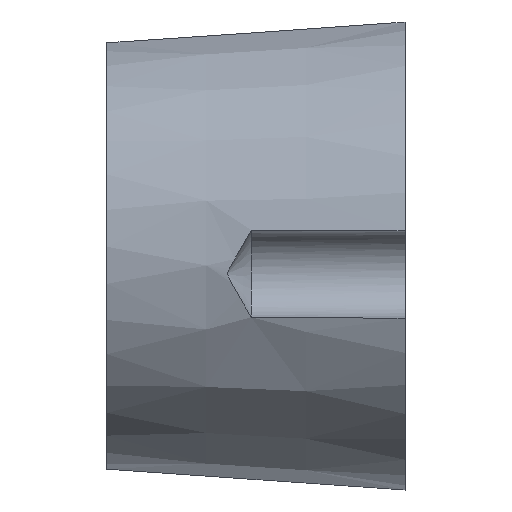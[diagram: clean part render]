
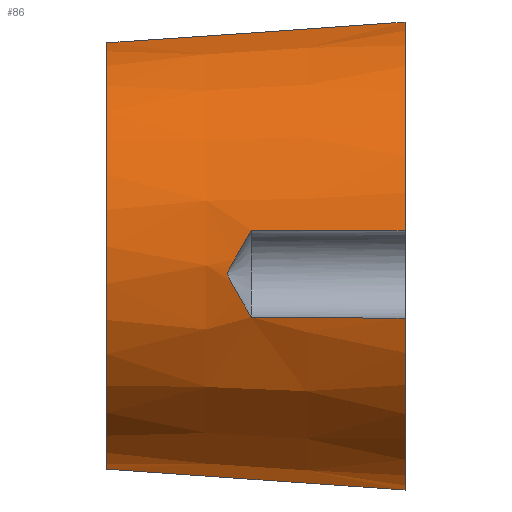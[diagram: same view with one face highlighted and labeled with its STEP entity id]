
A CAD part, top view. The second image highlights one B-rep face of the part: STEP entity #86.
In plain terms, the highlighted conical face has half-angle 4 degrees and reference radius 16.041 mm.
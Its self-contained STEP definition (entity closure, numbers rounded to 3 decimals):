
#86 = ADVANCED_FACE( '', ( #118 ), #119, .T. );
#118 = FACE_OUTER_BOUND( '', #158, .T. );
#119 = CONICAL_SURFACE( '', #159, 16.041, 0.07 );
#158 = EDGE_LOOP( '', ( #279, #280, #281, #282, #283, #284, #285, #286 ) );
#159 = AXIS2_PLACEMENT_3D( '', #287, #288, #289 );
#279 = ORIENTED_EDGE( '', *, *, #391, .F. );
#280 = ORIENTED_EDGE( '', *, *, #373, .F. );
#281 = ORIENTED_EDGE( '', *, *, #346, .F. );
#282 = ORIENTED_EDGE( '', *, *, #387, .T. );
#283 = ORIENTED_EDGE( '', *, *, #357, .T. );
#284 = ORIENTED_EDGE( '', *, *, #375, .F. );
#285 = ORIENTED_EDGE( '', *, *, #392, .F. );
#286 = ORIENTED_EDGE( '', *, *, #344, .F. );
#287 = CARTESIAN_POINT( '', ( -22.3, 0., 0. ) );
#288 = DIRECTION( '', ( 1., 0., 0. ) );
#289 = DIRECTION( '', ( 0., 1., 0. ) );
#344 = EDGE_CURVE( '', #398, #399, #400, .T. );
#346 = EDGE_CURVE( '', #402, #403, #404, .T. );
#357 = EDGE_CURVE( '', #419, #423, #425, .T. );
#373 = EDGE_CURVE( '', #403, #451, #452, .T. );
#375 = EDGE_CURVE( '', #453, #423, #455, .T. );
#387 = EDGE_CURVE( '', #402, #419, #475, .T. );
#391 = EDGE_CURVE( '', #451, #398, #481, .T. );
#392 = EDGE_CURVE( '', #399, #453, #482, .T. );
#398 = VERTEX_POINT( '', #488 );
#399 = VERTEX_POINT( '', #489 );
#400 = B_SPLINE_CURVE_WITH_KNOTS( '', 3, ( #490, #491, #492, #493, #494, #495, #496, #497, #498, #499, #500, #501, #502, #503, #504, #505, #506, #507, #508, #509, #510, #511 ), .UNSPECIFIED., .F., .F., ( 4, 2, 2, 2, 2, 2, 2, 2, 2, 2, 4 ), ( 0., 0.002, 0.003, 0.003, 0.004, 0.004, 0.004, 0.004, 0.005, 0.006, 0.007 ), .UNSPECIFIED. );
#402 = VERTEX_POINT( '', #513 );
#403 = VERTEX_POINT( '', #514 );
#404 = B_SPLINE_CURVE_WITH_KNOTS( '', 3, ( #515, #516, #517, #518, #519, #520 ), .UNSPECIFIED., .F., .F., ( 4, 2, 4 ), ( 0., 0.011, 0.022 ), .UNSPECIFIED. );
#419 = VERTEX_POINT( '', #549 );
#423 = VERTEX_POINT( '', #555 );
#425 = B_SPLINE_CURVE_WITH_KNOTS( '', 3, ( #558, #559, #560, #561, #562, #563, #564 ), .UNSPECIFIED., .F., .F., ( 4, 3, 4 ), ( 0.028, 0.03, 0.05 ), .UNSPECIFIED. );
#451 = VERTEX_POINT( '', #600 );
#452 = CIRCLE( '', #601, 17.6 );
#453 = VERTEX_POINT( '', #602 );
#455 = CIRCLE( '', #604, 17.6 );
#475 = CIRCLE( '', #630, 16.041 );
#481 = B_SPLINE_CURVE_WITH_KNOTS( '', 3, ( #663, #664, #665, #666 ), .UNSPECIFIED., .F., .F., ( 4, 4 ), ( 0., 0.012 ), .UNSPECIFIED. );
#482 = B_SPLINE_CURVE_WITH_KNOTS( '', 3, ( #667, #668, #669, #670 ), .UNSPECIFIED., .F., .F., ( 4, 4 ), ( 0., 0.012 ), .UNSPECIFIED. );
#488 = CARTESIAN_POINT( '', ( -11.5, 1.826, 16.696 ) );
#489 = CARTESIAN_POINT( '', ( -11.5, -4.687, 16.129 ) );
#490 = CARTESIAN_POINT( '', ( -11.5, 1.826, 16.696 ) );
#491 = CARTESIAN_POINT( '', ( -11.812, 1.287, 16.733 ) );
#492 = CARTESIAN_POINT( '', ( -12.124, 0.746, 16.744 ) );
#493 = CARTESIAN_POINT( '', ( -12.59, -0.065, 16.722 ) );
#494 = CARTESIAN_POINT( '', ( -12.745, -0.335, 16.708 ) );
#495 = CARTESIAN_POINT( '', ( -12.973, -0.743, 16.677 ) );
#496 = CARTESIAN_POINT( '', ( -13.048, -0.88, 16.665 ) );
#497 = CARTESIAN_POINT( '', ( -13.152, -1.088, 16.645 ) );
#498 = CARTESIAN_POINT( '', ( -13.185, -1.158, 16.638 ) );
#499 = CARTESIAN_POINT( '', ( -13.239, -1.304, 16.623 ) );
#500 = CARTESIAN_POINT( '', ( -13.259, -1.38, 16.616 ) );
#501 = CARTESIAN_POINT( '', ( -13.256, -1.536, 16.602 ) );
#502 = CARTESIAN_POINT( '', ( -13.233, -1.612, 16.597 ) );
#503 = CARTESIAN_POINT( '', ( -13.177, -1.756, 16.586 ) );
#504 = CARTESIAN_POINT( '', ( -13.143, -1.826, 16.581 ) );
#505 = CARTESIAN_POINT( '', ( -13.039, -2.033, 16.564 ) );
#506 = CARTESIAN_POINT( '', ( -12.964, -2.169, 16.553 ) );
#507 = CARTESIAN_POINT( '', ( -12.738, -2.574, 16.512 ) );
#508 = CARTESIAN_POINT( '', ( -12.583, -2.841, 16.479 ) );
#509 = CARTESIAN_POINT( '', ( -12.12, -3.638, 16.361 ) );
#510 = CARTESIAN_POINT( '', ( -11.81, -4.165, 16.258 ) );
#511 = CARTESIAN_POINT( '', ( -11.5, -4.687, 16.129 ) );
#513 = CARTESIAN_POINT( '', ( -22.3, 15.868, 2.347 ) );
#514 = CARTESIAN_POINT( '', ( 0., 17.423, 2.488 ) );
#515 = CARTESIAN_POINT( '', ( -22.3, 15.868, 2.347 ) );
#516 = CARTESIAN_POINT( '', ( -18.583, 16.115, 2.452 ) );
#517 = CARTESIAN_POINT( '', ( -14.866, 16.368, 2.515 ) );
#518 = CARTESIAN_POINT( '', ( -7.432, 16.887, 2.563 ) );
#519 = CARTESIAN_POINT( '', ( -3.716, 17.152, 2.549 ) );
#520 = CARTESIAN_POINT( '', ( 0., 17.423, 2.488 ) );
#549 = CARTESIAN_POINT( '', ( -22.3, -16.023, 0.75 ) );
#555 = CARTESIAN_POINT( '', ( 0., -17.584, 0.75 ) );
#558 = CARTESIAN_POINT( '', ( -22.3, -16.023, 0.75 ) );
#559 = CARTESIAN_POINT( '', ( -21.441, -16.083, 0.75 ) );
#560 = CARTESIAN_POINT( '', ( -20.582, -16.143, 0.75 ) );
#561 = CARTESIAN_POINT( '', ( -19.723, -16.203, 0.75 ) );
#562 = CARTESIAN_POINT( '', ( -13.149, -16.664, 0.75 ) );
#563 = CARTESIAN_POINT( '', ( -6.574, -17.124, 0.75 ) );
#564 = CARTESIAN_POINT( '', ( 0., -17.584, 0.75 ) );
#600 = CARTESIAN_POINT( '', ( 0., 1.766, 17.511 ) );
#601 = AXIS2_PLACEMENT_3D( '', #720, #721, #722 );
#602 = CARTESIAN_POINT( '', ( 0., -4.769, 16.942 ) );
#604 = AXIS2_PLACEMENT_3D( '', #726, #727, #728 );
#630 = AXIS2_PLACEMENT_3D( '', #750, #751, #752 );
#663 = CARTESIAN_POINT( '', ( 0., 1.766, 17.511 ) );
#664 = CARTESIAN_POINT( '', ( -3.833, 1.821, 17.236 ) );
#665 = CARTESIAN_POINT( '', ( -7.666, 1.84, 16.964 ) );
#666 = CARTESIAN_POINT( '', ( -11.5, 1.826, 16.696 ) );
#667 = CARTESIAN_POINT( '', ( -11.5, -4.687, 16.129 ) );
#668 = CARTESIAN_POINT( '', ( -7.666, -4.747, 16.39 ) );
#669 = CARTESIAN_POINT( '', ( -3.833, -4.775, 16.661 ) );
#670 = CARTESIAN_POINT( '', ( 0., -4.769, 16.942 ) );
#720 = CARTESIAN_POINT( '', ( 0., 0., 0. ) );
#721 = DIRECTION( '', ( 1., 0., 0. ) );
#722 = DIRECTION( '', ( 0., 1., 0. ) );
#726 = CARTESIAN_POINT( '', ( 0., 0., 0. ) );
#727 = DIRECTION( '', ( 1., 0., 0. ) );
#728 = DIRECTION( '', ( 0., 1., 0. ) );
#750 = CARTESIAN_POINT( '', ( -22.3, 0., 0. ) );
#751 = DIRECTION( '', ( 1., 0., 0. ) );
#752 = DIRECTION( '', ( 0., 1., 0. ) );
